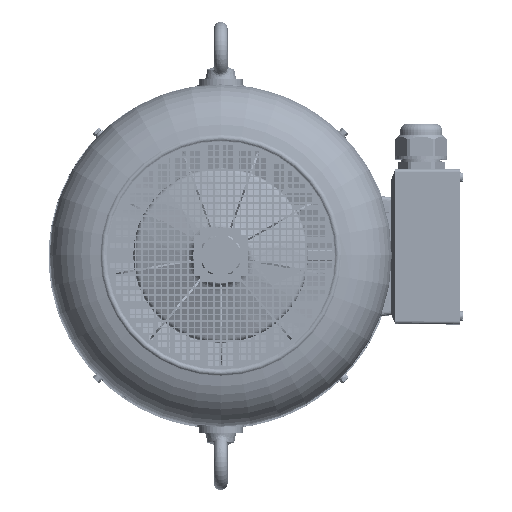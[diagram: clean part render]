
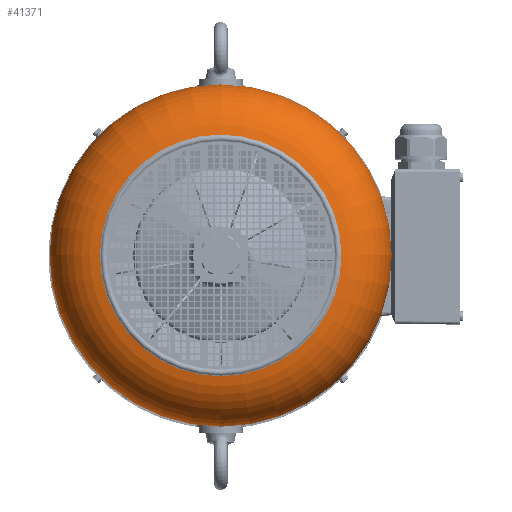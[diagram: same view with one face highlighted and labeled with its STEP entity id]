
A CAD part, top view. The second image highlights one B-rep face of the part: STEP entity #41371.
In plain terms, the highlighted toroidal (fillet/blend) face has major radius 181.5 mm and minor radius 92 mm.
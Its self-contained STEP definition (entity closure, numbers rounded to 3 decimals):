
#1065=TOROIDAL_SURFACE('',#132114,181.5,92.);
#41371=ADVANCED_FACE('',(#50430,#50431),#1065,.T.);
#50430=FACE_BOUND('',#53680,.T.);
#50431=FACE_BOUND('',#53681,.T.);
#53680=EDGE_LOOP('',(#69982));
#53681=EDGE_LOOP('',(#69983));
#69982=ORIENTED_EDGE('',*,*,#117683,.F.);
#69983=ORIENTED_EDGE('',*,*,#110956,.T.);
#98258=VERTEX_POINT('',#179069);
#104984=VERTEX_POINT('',#192527);
#110956=EDGE_CURVE('',#98258,#98258,#128454,.T.);
#117683=EDGE_CURVE('',#104984,#104984,#128461,.T.);
#128454=CIRCLE('',#132101,273.5);
#128461=CIRCLE('',#132113,193.092);
#132101=AXIS2_PLACEMENT_3D('',#179068,#143422,#143423);
#132113=AXIS2_PLACEMENT_3D('',#192526,#150166,#150167);
#132114=AXIS2_PLACEMENT_3D('',#192528,#150168,#150169);
#143422=DIRECTION('',(0.,0.,1.));
#143423=DIRECTION('',(1.,0.,0.));
#150166=DIRECTION('',(0.,0.,1.));
#150167=DIRECTION('',(1.,0.,0.));
#150168=DIRECTION('',(0.,0.,1.));
#150169=DIRECTION('',(1.,0.,0.));
#179068=CARTESIAN_POINT('',(204.672,302.904,969.624));
#179069=CARTESIAN_POINT('',(478.172,302.904,969.624));
#192526=CARTESIAN_POINT('',(204.672,302.904,1060.891));
#192527=CARTESIAN_POINT('',(397.764,302.904,1060.891));
#192528=CARTESIAN_POINT('',(204.672,302.904,969.624));
